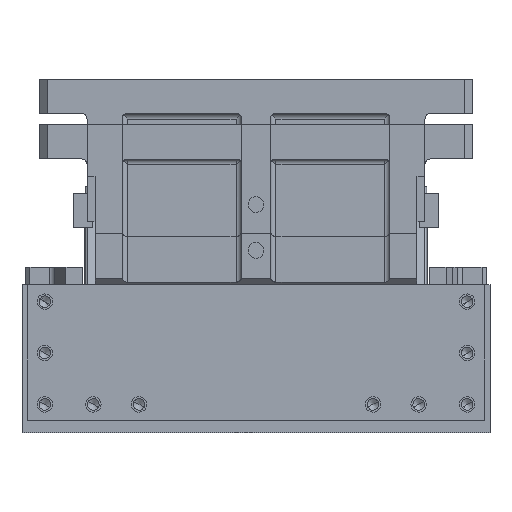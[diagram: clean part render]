
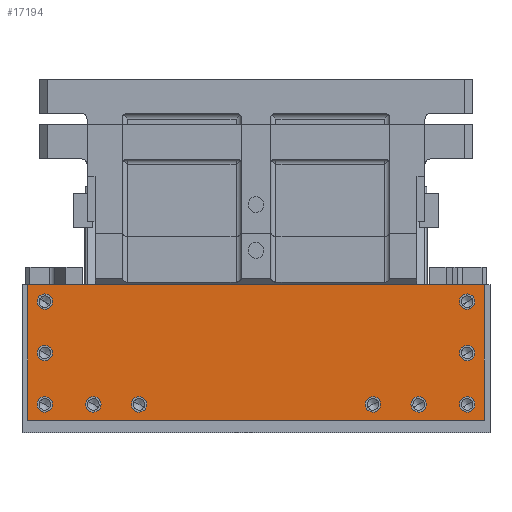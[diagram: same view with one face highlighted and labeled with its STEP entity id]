
A CAD part, left-side view. The second image highlights one B-rep face of the part: STEP entity #17194.
In plain terms, the highlighted planar face has unit normal (-1, 0, 0).
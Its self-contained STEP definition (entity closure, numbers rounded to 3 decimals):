
#14837=CARTESIAN_POINT('Vertex',(-12.,200.,130.)) ;
#14840=CARTESIAN_POINT('Line Origine',(-12.,0.,130.)) ;
#14844=CARTESIAN_POINT('Vertex',(-12.,-200.,130.)) ;
#16971=CARTESIAN_POINT('Vertex',(-12.,148.424,28.236)) ;
#16978=CARTESIAN_POINT('Vertex',(-12.,136.576,21.764)) ;
#16981=CARTESIAN_POINT('Axis2P3D Location',(-12.,142.5,25.)) ;
#16993=CARTESIAN_POINT('Axis2P3D Location',(-12.,0.,0.)) ;
#16998=CARTESIAN_POINT('Line Origine',(-12.,200.,70.5)) ;
#17002=CARTESIAN_POINT('Vertex',(-12.,200.,11.)) ;
#17005=CARTESIAN_POINT('Line Origine',(-12.,0.,11.)) ;
#17009=CARTESIAN_POINT('Vertex',(-12.,-200.,11.)) ;
#17012=CARTESIAN_POINT('Line Origine',(-12.,-200.,70.5)) ;
#17023=CARTESIAN_POINT('Axis2P3D Location',(-12.,-185.,115.)) ;
#17027=CARTESIAN_POINT('Vertex',(-12.,-179.076,111.764)) ;
#17029=CARTESIAN_POINT('Vertex',(-12.,-190.924,118.236)) ;
#17032=CARTESIAN_POINT('Axis2P3D Location',(-12.,-185.,115.)) ;
#17041=CARTESIAN_POINT('Axis2P3D Location',(-12.,-142.5,25.)) ;
#17045=CARTESIAN_POINT('Vertex',(-12.,-148.424,28.236)) ;
#17047=CARTESIAN_POINT('Vertex',(-12.,-136.576,21.764)) ;
#17050=CARTESIAN_POINT('Axis2P3D Location',(-12.,-142.5,25.)) ;
#17059=CARTESIAN_POINT('Axis2P3D Location',(-12.,-102.5,25.)) ;
#17063=CARTESIAN_POINT('Vertex',(-12.,-96.576,21.764)) ;
#17065=CARTESIAN_POINT('Vertex',(-12.,-108.424,28.236)) ;
#17068=CARTESIAN_POINT('Axis2P3D Location',(-12.,-102.5,25.)) ;
#17077=CARTESIAN_POINT('Axis2P3D Location',(-12.,-185.,70.)) ;
#17081=CARTESIAN_POINT('Vertex',(-12.,-190.924,73.236)) ;
#17083=CARTESIAN_POINT('Vertex',(-12.,-179.076,66.764)) ;
#17086=CARTESIAN_POINT('Axis2P3D Location',(-12.,-185.,70.)) ;
#17095=CARTESIAN_POINT('Axis2P3D Location',(-12.,-185.,25.)) ;
#17099=CARTESIAN_POINT('Vertex',(-12.,-190.924,28.236)) ;
#17101=CARTESIAN_POINT('Vertex',(-12.,-179.076,21.764)) ;
#17104=CARTESIAN_POINT('Axis2P3D Location',(-12.,-185.,25.)) ;
#17113=CARTESIAN_POINT('Axis2P3D Location',(-12.,185.,115.)) ;
#17117=CARTESIAN_POINT('Vertex',(-12.,179.076,111.764)) ;
#17119=CARTESIAN_POINT('Vertex',(-12.,190.924,118.236)) ;
#17122=CARTESIAN_POINT('Axis2P3D Location',(-12.,185.,115.)) ;
#17131=CARTESIAN_POINT('Axis2P3D Location',(-12.,185.,70.)) ;
#17135=CARTESIAN_POINT('Vertex',(-12.,179.076,66.764)) ;
#17137=CARTESIAN_POINT('Vertex',(-12.,190.924,73.236)) ;
#17140=CARTESIAN_POINT('Axis2P3D Location',(-12.,185.,70.)) ;
#17149=CARTESIAN_POINT('Axis2P3D Location',(-12.,185.,25.)) ;
#17153=CARTESIAN_POINT('Vertex',(-12.,190.924,28.236)) ;
#17155=CARTESIAN_POINT('Vertex',(-12.,179.076,21.764)) ;
#17158=CARTESIAN_POINT('Axis2P3D Location',(-12.,185.,25.)) ;
#17167=CARTESIAN_POINT('Axis2P3D Location',(-12.,142.5,25.)) ;
#17176=CARTESIAN_POINT('Axis2P3D Location',(-12.,102.5,25.)) ;
#17180=CARTESIAN_POINT('Vertex',(-12.,96.576,21.764)) ;
#17182=CARTESIAN_POINT('Vertex',(-12.,108.424,28.236)) ;
#17185=CARTESIAN_POINT('Axis2P3D Location',(-12.,102.5,25.)) ;
#14842=VECTOR('Line Direction',#14841,1.) ;
#17000=VECTOR('Line Direction',#16999,1.) ;
#17007=VECTOR('Line Direction',#17006,1.) ;
#17014=VECTOR('Line Direction',#17013,1.) ;
#14841=DIRECTION('Vector Direction',(0.,-1.,0.)) ;
#16982=DIRECTION('Axis2P3D Direction',(1.,0.,0.)) ;
#16994=DIRECTION('Axis2P3D Direction',(-1.,-0.,0.)) ;
#16995=DIRECTION('Axis2P3D XDirection',(0.,-1.,0.)) ;
#16999=DIRECTION('Vector Direction',(0.,0.,-1.)) ;
#17006=DIRECTION('Vector Direction',(0.,1.,0.)) ;
#17013=DIRECTION('Vector Direction',(0.,0.,-1.)) ;
#17024=DIRECTION('Axis2P3D Direction',(-1.,-0.,0.)) ;
#17033=DIRECTION('Axis2P3D Direction',(-1.,-0.,0.)) ;
#17042=DIRECTION('Axis2P3D Direction',(-1.,-0.,0.)) ;
#17051=DIRECTION('Axis2P3D Direction',(-1.,-0.,0.)) ;
#17060=DIRECTION('Axis2P3D Direction',(-1.,-0.,0.)) ;
#17069=DIRECTION('Axis2P3D Direction',(-1.,-0.,0.)) ;
#17078=DIRECTION('Axis2P3D Direction',(-1.,-0.,0.)) ;
#17087=DIRECTION('Axis2P3D Direction',(-1.,-0.,0.)) ;
#17096=DIRECTION('Axis2P3D Direction',(-1.,-0.,0.)) ;
#17105=DIRECTION('Axis2P3D Direction',(-1.,-0.,0.)) ;
#17114=DIRECTION('Axis2P3D Direction',(-1.,-0.,0.)) ;
#17123=DIRECTION('Axis2P3D Direction',(-1.,-0.,0.)) ;
#17132=DIRECTION('Axis2P3D Direction',(-1.,-0.,0.)) ;
#17141=DIRECTION('Axis2P3D Direction',(-1.,-0.,0.)) ;
#17150=DIRECTION('Axis2P3D Direction',(-1.,-0.,0.)) ;
#17159=DIRECTION('Axis2P3D Direction',(-1.,-0.,0.)) ;
#17168=DIRECTION('Axis2P3D Direction',(-1.,-0.,0.)) ;
#17177=DIRECTION('Axis2P3D Direction',(-1.,-0.,0.)) ;
#17186=DIRECTION('Axis2P3D Direction',(-1.,-0.,0.)) ;
#16983=AXIS2_PLACEMENT_3D('Circle Axis2P3D',#16981,#16982,$) ;
#16996=AXIS2_PLACEMENT_3D('Plane Axis2P3D',#16993,#16994,#16995) ;
#17025=AXIS2_PLACEMENT_3D('Circle Axis2P3D',#17023,#17024,$) ;
#17034=AXIS2_PLACEMENT_3D('Circle Axis2P3D',#17032,#17033,$) ;
#17043=AXIS2_PLACEMENT_3D('Circle Axis2P3D',#17041,#17042,$) ;
#17052=AXIS2_PLACEMENT_3D('Circle Axis2P3D',#17050,#17051,$) ;
#17061=AXIS2_PLACEMENT_3D('Circle Axis2P3D',#17059,#17060,$) ;
#17070=AXIS2_PLACEMENT_3D('Circle Axis2P3D',#17068,#17069,$) ;
#17079=AXIS2_PLACEMENT_3D('Circle Axis2P3D',#17077,#17078,$) ;
#17088=AXIS2_PLACEMENT_3D('Circle Axis2P3D',#17086,#17087,$) ;
#17097=AXIS2_PLACEMENT_3D('Circle Axis2P3D',#17095,#17096,$) ;
#17106=AXIS2_PLACEMENT_3D('Circle Axis2P3D',#17104,#17105,$) ;
#17115=AXIS2_PLACEMENT_3D('Circle Axis2P3D',#17113,#17114,$) ;
#17124=AXIS2_PLACEMENT_3D('Circle Axis2P3D',#17122,#17123,$) ;
#17133=AXIS2_PLACEMENT_3D('Circle Axis2P3D',#17131,#17132,$) ;
#17142=AXIS2_PLACEMENT_3D('Circle Axis2P3D',#17140,#17141,$) ;
#17151=AXIS2_PLACEMENT_3D('Circle Axis2P3D',#17149,#17150,$) ;
#17160=AXIS2_PLACEMENT_3D('Circle Axis2P3D',#17158,#17159,$) ;
#17169=AXIS2_PLACEMENT_3D('Circle Axis2P3D',#17167,#17168,$) ;
#17178=AXIS2_PLACEMENT_3D('Circle Axis2P3D',#17176,#17177,$) ;
#17187=AXIS2_PLACEMENT_3D('Circle Axis2P3D',#17185,#17186,$) ;
#14843=LINE('Line',#14840,#14842) ;
#17001=LINE('Line',#16998,#17000) ;
#17008=LINE('Line',#17005,#17007) ;
#17015=LINE('Line',#17012,#17014) ;
#16984=CIRCLE('generated circle',#16983,6.75) ;
#17026=CIRCLE('generated circle',#17025,6.75) ;
#17035=CIRCLE('generated circle',#17034,6.75) ;
#17044=CIRCLE('generated circle',#17043,6.75) ;
#17053=CIRCLE('generated circle',#17052,6.75) ;
#17062=CIRCLE('generated circle',#17061,6.75) ;
#17071=CIRCLE('generated circle',#17070,6.75) ;
#17080=CIRCLE('generated circle',#17079,6.75) ;
#17089=CIRCLE('generated circle',#17088,6.75) ;
#17098=CIRCLE('generated circle',#17097,6.75) ;
#17107=CIRCLE('generated circle',#17106,6.75) ;
#17116=CIRCLE('generated circle',#17115,6.75) ;
#17125=CIRCLE('generated circle',#17124,6.75) ;
#17134=CIRCLE('generated circle',#17133,6.75) ;
#17143=CIRCLE('generated circle',#17142,6.75) ;
#17152=CIRCLE('generated circle',#17151,6.75) ;
#17161=CIRCLE('generated circle',#17160,6.75) ;
#17170=CIRCLE('generated circle',#17169,6.75) ;
#17179=CIRCLE('generated circle',#17178,6.75) ;
#17188=CIRCLE('generated circle',#17187,6.75) ;
#16997=PLANE('',#16996) ;
#17040=FACE_BOUND('',#17037,.T.) ;
#17058=FACE_BOUND('',#17055,.T.) ;
#17076=FACE_BOUND('',#17073,.T.) ;
#17094=FACE_BOUND('',#17091,.T.) ;
#17112=FACE_BOUND('',#17109,.T.) ;
#17130=FACE_BOUND('',#17127,.T.) ;
#17148=FACE_BOUND('',#17145,.T.) ;
#17166=FACE_BOUND('',#17163,.T.) ;
#17175=FACE_BOUND('',#17172,.T.) ;
#17193=FACE_BOUND('',#17190,.T.) ;
#14846=EDGE_CURVE('',#14838,#14845,#14843,.T.) ;
#16985=EDGE_CURVE('',#16979,#16972,#16984,.F.) ;
#17004=EDGE_CURVE('',#14838,#17003,#17001,.T.) ;
#17011=EDGE_CURVE('',#17010,#17003,#17008,.T.) ;
#17016=EDGE_CURVE('',#14845,#17010,#17015,.T.) ;
#17031=EDGE_CURVE('',#17028,#17030,#17026,.F.) ;
#17036=EDGE_CURVE('',#17030,#17028,#17035,.F.) ;
#17049=EDGE_CURVE('',#17046,#17048,#17044,.F.) ;
#17054=EDGE_CURVE('',#17048,#17046,#17053,.F.) ;
#17067=EDGE_CURVE('',#17064,#17066,#17062,.F.) ;
#17072=EDGE_CURVE('',#17066,#17064,#17071,.F.) ;
#17085=EDGE_CURVE('',#17082,#17084,#17080,.F.) ;
#17090=EDGE_CURVE('',#17084,#17082,#17089,.F.) ;
#17103=EDGE_CURVE('',#17100,#17102,#17098,.F.) ;
#17108=EDGE_CURVE('',#17102,#17100,#17107,.F.) ;
#17121=EDGE_CURVE('',#17118,#17120,#17116,.T.) ;
#17126=EDGE_CURVE('',#17120,#17118,#17125,.T.) ;
#17139=EDGE_CURVE('',#17136,#17138,#17134,.T.) ;
#17144=EDGE_CURVE('',#17138,#17136,#17143,.T.) ;
#17157=EDGE_CURVE('',#17154,#17156,#17152,.T.) ;
#17162=EDGE_CURVE('',#17156,#17154,#17161,.T.) ;
#17171=EDGE_CURVE('',#16972,#16979,#17170,.T.) ;
#17184=EDGE_CURVE('',#17181,#17183,#17179,.T.) ;
#17189=EDGE_CURVE('',#17183,#17181,#17188,.T.) ;
#17017=EDGE_LOOP('',(#17018,#17019,#17020,#17021)) ;
#17037=EDGE_LOOP('',(#17038,#17039)) ;
#17055=EDGE_LOOP('',(#17056,#17057)) ;
#17073=EDGE_LOOP('',(#17074,#17075)) ;
#17091=EDGE_LOOP('',(#17092,#17093)) ;
#17109=EDGE_LOOP('',(#17110,#17111)) ;
#17127=EDGE_LOOP('',(#17128,#17129)) ;
#17145=EDGE_LOOP('',(#17146,#17147)) ;
#17163=EDGE_LOOP('',(#17164,#17165)) ;
#17172=EDGE_LOOP('',(#17173,#17174)) ;
#17190=EDGE_LOOP('',(#17191,#17192)) ;
#17018=ORIENTED_EDGE('',*,*,#17004,.T.) ;
#17019=ORIENTED_EDGE('',*,*,#17011,.F.) ;
#17020=ORIENTED_EDGE('',*,*,#17016,.F.) ;
#17021=ORIENTED_EDGE('',*,*,#14846,.F.) ;
#17038=ORIENTED_EDGE('',*,*,#17031,.T.) ;
#17039=ORIENTED_EDGE('',*,*,#17036,.T.) ;
#17056=ORIENTED_EDGE('',*,*,#17049,.T.) ;
#17057=ORIENTED_EDGE('',*,*,#17054,.T.) ;
#17074=ORIENTED_EDGE('',*,*,#17067,.T.) ;
#17075=ORIENTED_EDGE('',*,*,#17072,.T.) ;
#17092=ORIENTED_EDGE('',*,*,#17085,.T.) ;
#17093=ORIENTED_EDGE('',*,*,#17090,.T.) ;
#17110=ORIENTED_EDGE('',*,*,#17103,.T.) ;
#17111=ORIENTED_EDGE('',*,*,#17108,.T.) ;
#17128=ORIENTED_EDGE('',*,*,#17121,.F.) ;
#17129=ORIENTED_EDGE('',*,*,#17126,.F.) ;
#17146=ORIENTED_EDGE('',*,*,#17139,.F.) ;
#17147=ORIENTED_EDGE('',*,*,#17144,.F.) ;
#17164=ORIENTED_EDGE('',*,*,#17157,.F.) ;
#17165=ORIENTED_EDGE('',*,*,#17162,.F.) ;
#17173=ORIENTED_EDGE('',*,*,#17171,.F.) ;
#17174=ORIENTED_EDGE('',*,*,#16985,.F.) ;
#17191=ORIENTED_EDGE('',*,*,#17184,.F.) ;
#17192=ORIENTED_EDGE('',*,*,#17189,.F.) ;
#14838=VERTEX_POINT('',#14837) ;
#14845=VERTEX_POINT('',#14844) ;
#16972=VERTEX_POINT('',#16971) ;
#16979=VERTEX_POINT('',#16978) ;
#17003=VERTEX_POINT('',#17002) ;
#17010=VERTEX_POINT('',#17009) ;
#17028=VERTEX_POINT('',#17027) ;
#17030=VERTEX_POINT('',#17029) ;
#17046=VERTEX_POINT('',#17045) ;
#17048=VERTEX_POINT('',#17047) ;
#17064=VERTEX_POINT('',#17063) ;
#17066=VERTEX_POINT('',#17065) ;
#17082=VERTEX_POINT('',#17081) ;
#17084=VERTEX_POINT('',#17083) ;
#17100=VERTEX_POINT('',#17099) ;
#17102=VERTEX_POINT('',#17101) ;
#17118=VERTEX_POINT('',#17117) ;
#17120=VERTEX_POINT('',#17119) ;
#17136=VERTEX_POINT('',#17135) ;
#17138=VERTEX_POINT('',#17137) ;
#17154=VERTEX_POINT('',#17153) ;
#17156=VERTEX_POINT('',#17155) ;
#17181=VERTEX_POINT('',#17180) ;
#17183=VERTEX_POINT('',#17182) ;
#17194=ADVANCED_FACE('base',(#17022,#17040,#17058,#17076,#17094,#17112,#17130,#17148,#17166,#17175,#17193),#16997,.T.) ;
#17022=FACE_OUTER_BOUND('',#17017,.T.) ;
